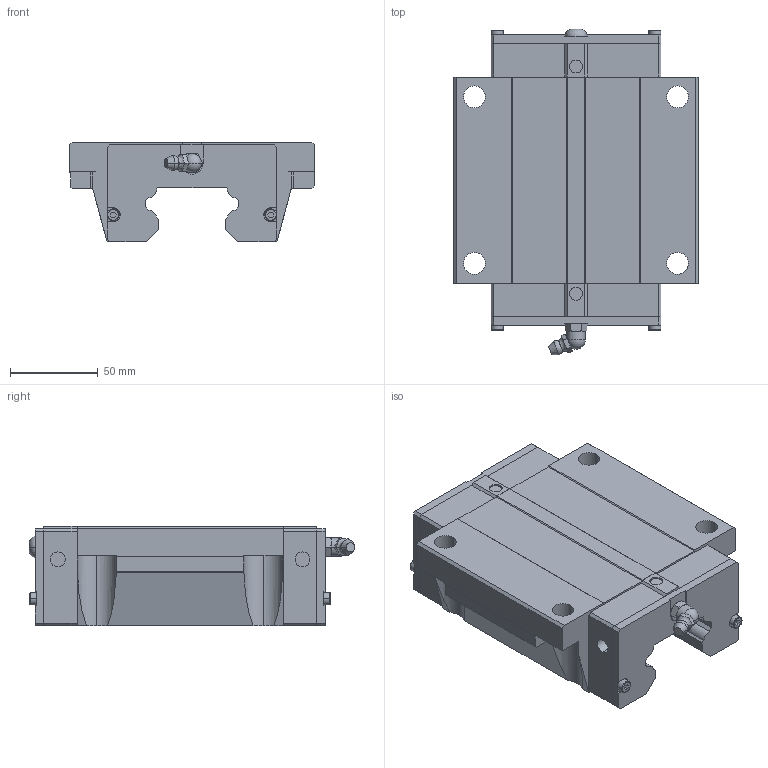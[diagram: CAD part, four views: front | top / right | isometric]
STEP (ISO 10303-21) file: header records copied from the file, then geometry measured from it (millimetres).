
FILE_DESCRIPTION(('no description'),'unknown implementation level');
FILE_NAME('HGW55CC_Z0_H_SS_26.stp',' ',('HIWIN GmbH'),('CADClick - KiM GmbH - www.kimweb.de'),'unknown preprocess','ACIS','unknown authorization');
FILE_SCHEMA(('automotive_design'));
Length unit declared in the file: millimetre
Products named in the file (1): HGW55CC Z0 H SS
Bounding box: 140 x 185.83 x 57 mm (x, y, z)
Volume: 799529.1 mm3; surface area: 88040.8 mm2
Topology: 1 solids, 6 shells, 313 faces, 828 edges, 534 vertices
Faces by surface type: plane 199, cylinder 68, torus 30, cone 14, sphere 2
Entity records: 19164 total; most frequent: CARTESIAN_POINT 1974, STYLED_ITEM 1674, PRESENTATION_STYLE_ASSIGNMENT 1674, COLOUR_RGB 1674, ORIENTED_EDGE 1652, DIRECTION 1636, EDGE_CURVE 826, CURVE_STYLE 826
